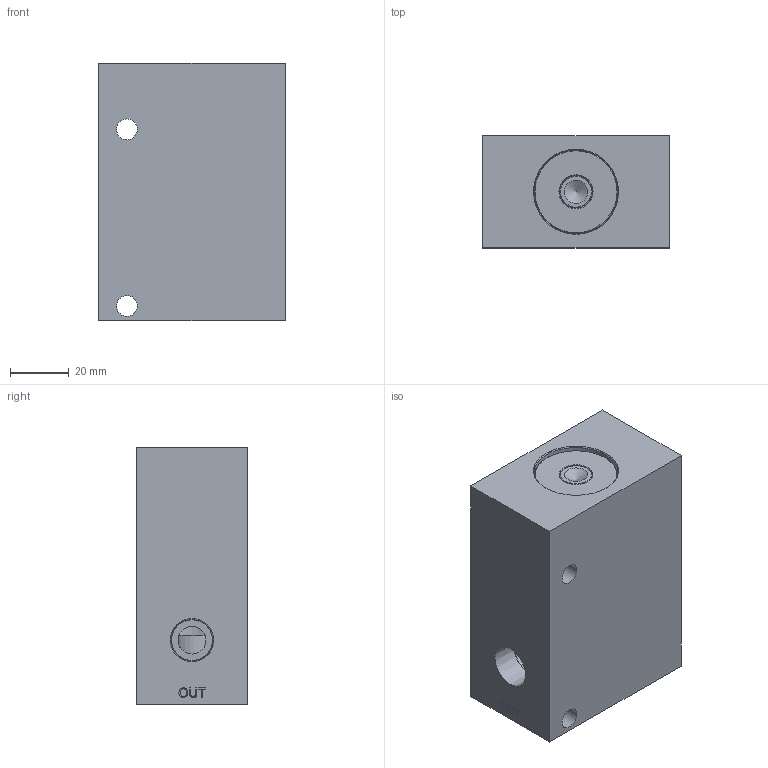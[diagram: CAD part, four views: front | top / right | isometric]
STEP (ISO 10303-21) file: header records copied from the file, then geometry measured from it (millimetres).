
FILE_DESCRIPTION(/* description */ (''),/* implementation_level */ '2;1');
FILE_NAME(/* name */ 'L:\ALADCO\Advertising\3D Content\Valves\Step Files - 2014-11-19 thru Present\41380X.stp',/* time_stamp */ '2014-11-19T16:24:40-06:00',/* author */ ('dmatz'),/* organization */ (''),/* preprocessor_version */ 'ST-DEVELOPER v15.2',/* originating_system */ 'Autodesk Inventor 2014',/* authorisation */ '');
FILE_SCHEMA (('AUTOMOTIVE_DESIGN { 1 0 10303 214 3 1 1 }'));
Length unit declared in the file: inch
Products named in the file (5): 553800NPTF; 311020; 311015; 301076; 513801
Bounding box: 63.5 x 38.1 x 87.99 mm (x, y, z)
Volume: 173878.1 mm3; surface area: 40270.2 mm2
Topology: 4 solids, 4 shells, 187 faces, 429 edges, 280 vertices
Faces by surface type: plane 99, cylinder 29, bspline 26, cone 19, torus 14
Full cylindrical faces by diameter (mm): 1.499 x1, 6.629 x1, 7.112 x2, 7.938 x1, 9.144 x1, 9.525 x2, 10.719 x1, 11.049 x2, 11.1 x1, 12.7 x1, 13.081 x1, 13.894 x2, 15.081 x1, 17.577 x1, 22.149 x1, 24.409 x1, 24.435 x1, 25.4 x2, 28.524 x4, 28.575 x2
Entity records: 5407 total; most frequent: CARTESIAN_POINT 1375, DIRECTION 718, ORIENTED_EDGE 688, EDGE_CURVE 344, EDGE_LOOP 296, VERTEX_POINT 260, AXIS2_PLACEMENT_3D 259, LINE 200
